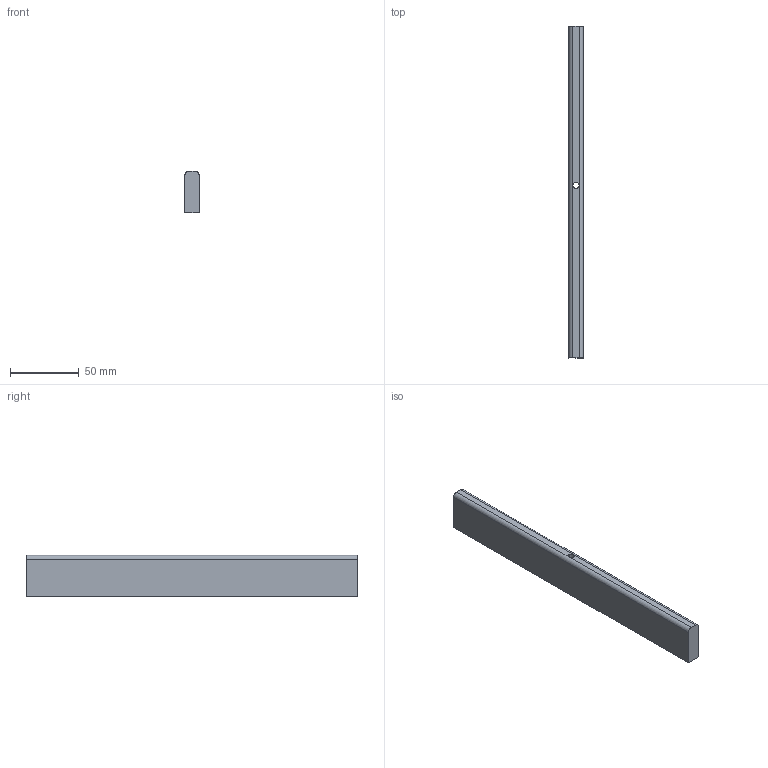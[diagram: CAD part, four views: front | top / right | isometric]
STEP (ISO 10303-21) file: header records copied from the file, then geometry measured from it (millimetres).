
FILE_DESCRIPTION (( 'STEP AP214' ), '1' );
FILE_NAME ('_Seitenreling_SP60702400_RL242,1.step', '2010-09-06T14:52:01', ( 'grass' ), ( '' ), 'SwSTEP 2.0', 'SolidWorks 2010', '' );
FILE_SCHEMA (( 'AUTOMOTIVE_DESIGN' ));
Length unit declared in the file: millimetre
Products named in the file (1): _Seitenreling_SP60702400_RL242,1
Bounding box: 10.5 x 242.1 x 30 mm (x, y, z)
Volume: 74407.3 mm3; surface area: 20147.3 mm2
Topology: 1 solids, 1 shells, 14 faces, 34 edges, 22 vertices
Faces by surface type: plane 8, cylinder 6
Entity records: 454 total; most frequent: DIRECTION 78, CARTESIAN_POINT 71, ORIENTED_EDGE 68, EDGE_CURVE 34, AXIS2_PLACEMENT_3D 29, VERTEX_POINT 22, LINE 20, VECTOR 20
